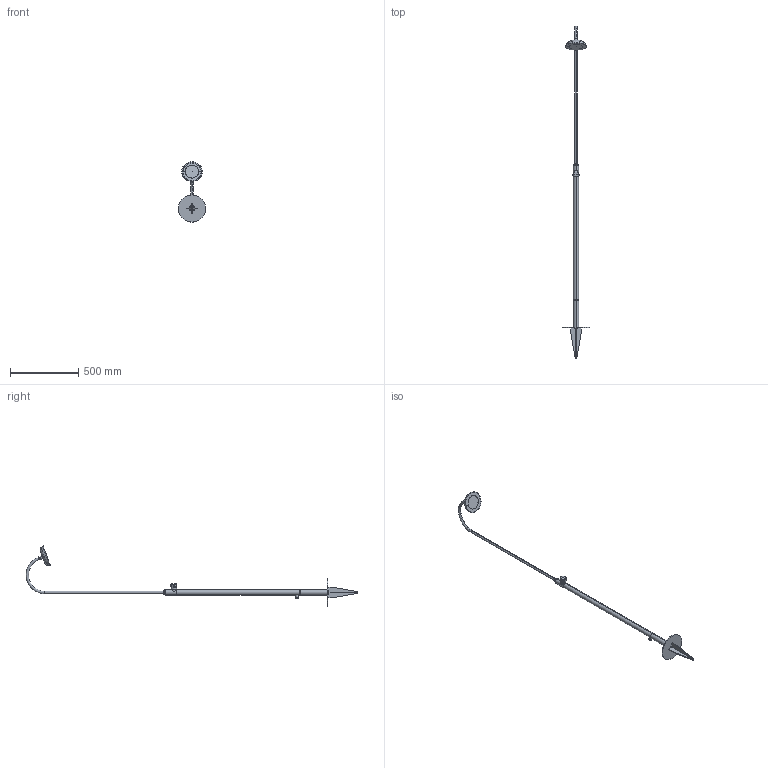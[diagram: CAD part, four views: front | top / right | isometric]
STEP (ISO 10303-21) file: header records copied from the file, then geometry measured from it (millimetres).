
FILE_DESCRIPTION((''),'2;1');
FILE_NAME('89795--25_SW0001','2026-09-09T14:11:34',('clra1'),(''),'CREO PARAMETRIC BY PTC INC, 2022244','CREO PARAMETRIC BY PTC INC, 2022244','');
FILE_SCHEMA(('CONFIG_CONTROL_DESIGN'));
Length unit declared in the file: millimetre
Products named in the file (1): 89795--25_SW0001
Bounding box: 200 x 2426.92 x 441 mm (x, y, z)
Surface area: 426267.6 mm2 (no closed solid volume)
Topology: 0 solids, 31 shells, 769 faces, 3604 edges, 2400 vertices
Faces by surface type: plane 619, bspline 58, cylinder 49, cone 21, torus 15, revolution 7
Entity records: 42405 total; most frequent: CARTESIAN_POINT 13614, ORIENTED_EDGE 6767, DIRECTION 5170, EDGE_CURVE 3602, VECTOR 3113, LINE 3113, VERTEX_POINT 2400, AXIS2_PLACEMENT_3D 1025
